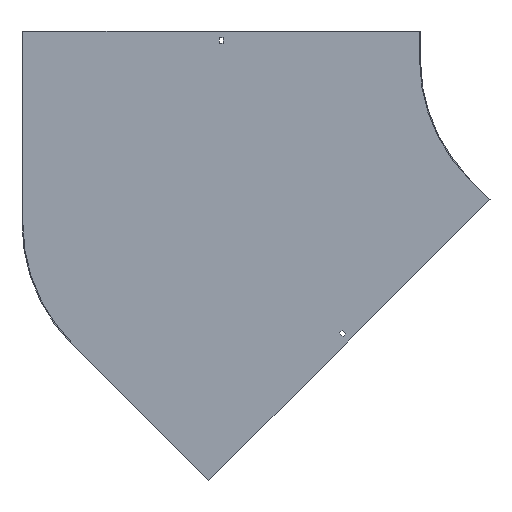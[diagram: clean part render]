
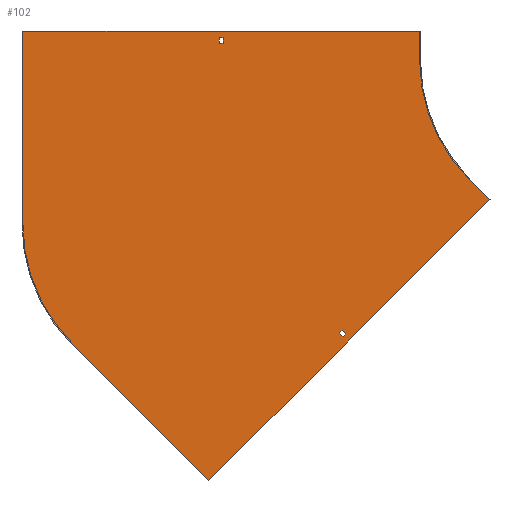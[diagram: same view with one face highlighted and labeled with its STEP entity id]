
A CAD part, front view. The second image highlights one B-rep face of the part: STEP entity #102.
In plain terms, the highlighted planar face has unit normal (0, -1, 0).
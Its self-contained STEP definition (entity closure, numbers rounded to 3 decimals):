
#5 = FACE_BOUND ( 'NONE', #630, .T. ) ;
#7 = CARTESIAN_POINT ( 'NONE',  ( -300., -1.5, 0. ) ) ;
#9 = CARTESIAN_POINT ( 'NONE',  ( -212.132, -1.5, -212.132 ) ) ;
#11 = DIRECTION ( 'NONE',  ( 0.707, 0., -0.707 ) ) ;
#32 = EDGE_CURVE ( 'NONE', #380, #757, #573, .T. ) ;
#38 = ORIENTED_EDGE ( 'NONE', *, *, #727, .T. ) ;
#45 = ORIENTED_EDGE ( 'NONE', *, *, #806, .F. ) ;
#46 = CARTESIAN_POINT ( 'NONE',  ( -700., -1.5, -289.949 ) ) ;
#52 = ORIENTED_EDGE ( 'NONE', *, *, #331, .F. ) ;
#60 = CARTESIAN_POINT ( 'NONE',  ( -912.132, -1.5, -502.082 ) ) ;
#63 = DIRECTION ( 'NONE',  ( 1., 0., 0. ) ) ;
#64 = LINE ( 'NONE', #9, #744 ) ;
#65 = CARTESIAN_POINT ( 'NONE',  ( 0., -1.5, 0. ) ) ;
#80 = CARTESIAN_POINT ( 'NONE',  ( 20.506, -1.5, -20.506 ) ) ;
#91 = ORIENTED_EDGE ( 'NONE', *, *, #459, .F. ) ;
#100 = VERTEX_POINT ( 'NONE', #497 ) ;
#102 = ADVANCED_FACE ( 'NONE', ( #816, #229, #5 ), #150, .T. ) ;
#112 = CARTESIAN_POINT ( 'NONE',  ( -646.75, -1.5, 0. ) ) ;
#115 = VECTOR ( 'NONE', #602, 1000. ) ;
#117 = ORIENTED_EDGE ( 'NONE', *, *, #769, .T. ) ;
#129 = ORIENTED_EDGE ( 'NONE', *, *, #659, .T. ) ;
#133 = CARTESIAN_POINT ( 'NONE',  ( 0., -1.5, 0. ) ) ;
#134 = DIRECTION ( 'NONE',  ( 0.707, 0., -0.707 ) ) ;
#135 = DIRECTION ( 'NONE',  ( 1., 0., 0. ) ) ;
#138 = DIRECTION ( 'NONE',  ( -0.707, 0., -0.707 ) ) ;
#145 = CARTESIAN_POINT ( 'NONE',  ( 26.87, -1.5, -26.87 ) ) ;
#150 = PLANE ( 'NONE',  #218 ) ;
#152 = VERTEX_POINT ( 'NONE', #413 ) ;
#176 = ORIENTED_EDGE ( 'NONE', *, *, #32, .T. ) ;
#177 = EDGE_CURVE ( 'NONE', #534, #817, #225, .T. ) ;
#182 = VERTEX_POINT ( 'NONE', #7 ) ;
#183 = VERTEX_POINT ( 'NONE', #276 ) ;
#188 = CARTESIAN_POINT ( 'NONE',  ( -441.411, -1.5, -482.424 ) ) ;
#201 = CARTESIAN_POINT ( 'NONE',  ( -653.25, -1.5, 38. ) ) ;
#207 = LINE ( 'NONE', #145, #210 ) ;
#210 = VECTOR ( 'NONE', #496, 1000. ) ;
#218 = AXIS2_PLACEMENT_3D ( 'NONE', #65, #358, #345 ) ;
#225 = LINE ( 'NONE', #685, #518 ) ;
#229 = FACE_OUTER_BOUND ( 'NONE', #570, .T. ) ;
#240 = ORIENTED_EDGE ( 'NONE', *, *, #536, .F. ) ;
#249 = VERTEX_POINT ( 'NONE', #707 ) ;
#261 = LINE ( 'NONE', #112, #815 ) ;
#274 = LINE ( 'NONE', #671, #721 ) ;
#275 = ORIENTED_EDGE ( 'NONE', *, *, #543, .F. ) ;
#276 = CARTESIAN_POINT ( 'NONE',  ( -176.777, -1.5, -247.487 ) ) ;
#285 = CARTESIAN_POINT ( 'NONE',  ( -435.047, -1.5, -488.788 ) ) ;
#297 = VERTEX_POINT ( 'NONE', #506 ) ;
#300 = AXIS2_PLACEMENT_3D ( 'NONE', #133, #601, #558 ) ;
#315 = LINE ( 'NONE', #582, #623 ) ;
#320 = DIRECTION ( 'NONE',  ( 0., 1., 0. ) ) ;
#331 = EDGE_CURVE ( 'NONE', #152, #182, #587, .T. ) ;
#332 = LINE ( 'NONE', #490, #741 ) ;
#336 = VERTEX_POINT ( 'NONE', #188 ) ;
#345 = DIRECTION ( 'NONE',  ( 0., 0., -1. ) ) ;
#352 = CARTESIAN_POINT ( 'NONE',  ( -653.25, -1.5, 0. ) ) ;
#358 = DIRECTION ( 'NONE',  ( 0., -1., 0. ) ) ;
#380 = VERTEX_POINT ( 'NONE', #201 ) ;
#386 = ORIENTED_EDGE ( 'NONE', *, *, #767, .F. ) ;
#388 = DIRECTION ( 'NONE',  ( -0.707, 0., -0.707 ) ) ;
#390 = DIRECTION ( 'NONE',  ( 0., 0., -1. ) ) ;
#404 = ORIENTED_EDGE ( 'NONE', *, *, #466, .F. ) ;
#405 = DIRECTION ( 'NONE',  ( 0., 0., 1. ) ) ;
#413 = CARTESIAN_POINT ( 'NONE',  ( -300., -1.5, 50. ) ) ;
#423 = CARTESIAN_POINT ( 'NONE',  ( -436.815, -1.5, -477.827 ) ) ;
#430 = VERTEX_POINT ( 'NONE', #285 ) ;
#459 = EDGE_CURVE ( 'NONE', #182, #777, #549, .T. ) ;
#461 = CARTESIAN_POINT ( 'NONE',  ( -1000., -1.5, -289.949 ) ) ;
#466 = EDGE_CURVE ( 'NONE', #100, #152, #487, .T. ) ;
#468 = DIRECTION ( 'NONE',  ( 0., 0., -1. ) ) ;
#472 = CIRCLE ( 'NONE', #504, 300. ) ;
#478 = VECTOR ( 'NONE', #725, 1000. ) ;
#482 = CARTESIAN_POINT ( 'NONE',  ( -646.75, -1.5, 38. ) ) ;
#487 = LINE ( 'NONE', #674, #783 ) ;
#490 = CARTESIAN_POINT ( 'NONE',  ( -1000., -1.5, -289.949 ) ) ;
#495 = EDGE_LOOP ( 'NONE', ( #833, #386, #275, #716 ) ) ;
#496 = DIRECTION ( 'NONE',  ( 0.707, 0., 0.707 ) ) ;
#497 = CARTESIAN_POINT ( 'NONE',  ( -1000., -1.5, 50. ) ) ;
#504 = AXIS2_PLACEMENT_3D ( 'NONE', #46, #320, #585 ) ;
#506 = CARTESIAN_POINT ( 'NONE',  ( -430.451, -1.5, -484.191 ) ) ;
#518 = VECTOR ( 'NONE', #748, 1000. ) ;
#529 = EDGE_CURVE ( 'NONE', #183, #534, #315, .T. ) ;
#532 = LINE ( 'NONE', #655, #478 ) ;
#534 = VERTEX_POINT ( 'NONE', #652 ) ;
#536 = EDGE_CURVE ( 'NONE', #817, #701, #472, .T. ) ;
#538 = CARTESIAN_POINT ( 'NONE',  ( -646.75, -1.5, 29. ) ) ;
#543 = EDGE_CURVE ( 'NONE', #336, #430, #849, .T. ) ;
#549 = CIRCLE ( 'NONE', #300, 300. ) ;
#556 = LINE ( 'NONE', #352, #115 ) ;
#558 = DIRECTION ( 'NONE',  ( 0., 0., -1. ) ) ;
#570 = EDGE_LOOP ( 'NONE', ( #404, #666, #240, #622, #828, #45, #91, #52 ) ) ;
#573 = LINE ( 'NONE', #835, #851 ) ;
#582 = CARTESIAN_POINT ( 'NONE',  ( -175.716, -1.5, -246.427 ) ) ;
#585 = DIRECTION ( 'NONE',  ( 0., 0., -1. ) ) ;
#587 = LINE ( 'NONE', #794, #631 ) ;
#601 = DIRECTION ( 'NONE',  ( 0., -1., 0. ) ) ;
#602 = DIRECTION ( 'NONE',  ( 0., 0., 1. ) ) ;
#603 = VECTOR ( 'NONE', #11, 1000. ) ;
#604 = DIRECTION ( 'NONE',  ( -1., 0., 0. ) ) ;
#622 = ORIENTED_EDGE ( 'NONE', *, *, #177, .F. ) ;
#623 = VECTOR ( 'NONE', #388, 1000. ) ;
#629 = EDGE_CURVE ( 'NONE', #701, #100, #332, .T. ) ;
#630 = EDGE_LOOP ( 'NONE', ( #176, #38, #129, #117 ) ) ;
#631 = VECTOR ( 'NONE', #468, 1000. ) ;
#652 = CARTESIAN_POINT ( 'NONE',  ( -671.751, -1.5, -742.462 ) ) ;
#655 = CARTESIAN_POINT ( 'NONE',  ( -457.321, -1.5, -457.321 ) ) ;
#659 = EDGE_CURVE ( 'NONE', #763, #249, #274, .T. ) ;
#666 = ORIENTED_EDGE ( 'NONE', *, *, #629, .F. ) ;
#667 = CARTESIAN_POINT ( 'NONE',  ( -461.918, -1.5, -461.918 ) ) ;
#671 = CARTESIAN_POINT ( 'NONE',  ( 0., -1.5, 29. ) ) ;
#674 = CARTESIAN_POINT ( 'NONE',  ( -1001.5, -1.5, 50. ) ) ;
#685 = CARTESIAN_POINT ( 'NONE',  ( -671.751, -1.5, -742.462 ) ) ;
#689 = CARTESIAN_POINT ( 'NONE',  ( -212.132, -1.5, -212.132 ) ) ;
#696 = VECTOR ( 'NONE', #138, 1000. ) ;
#701 = VERTEX_POINT ( 'NONE', #461 ) ;
#707 = CARTESIAN_POINT ( 'NONE',  ( -653.25, -1.5, 29. ) ) ;
#716 = ORIENTED_EDGE ( 'NONE', *, *, #785, .F. ) ;
#721 = VECTOR ( 'NONE', #604, 1000. ) ;
#725 = DIRECTION ( 'NONE',  ( -0.707, 0., 0.707 ) ) ;
#727 = EDGE_CURVE ( 'NONE', #757, #763, #261, .T. ) ;
#734 = EDGE_CURVE ( 'NONE', #297, #761, #532, .T. ) ;
#737 = LINE ( 'NONE', #80, #696 ) ;
#741 = VECTOR ( 'NONE', #405, 1000. ) ;
#744 = VECTOR ( 'NONE', #134, 1000. ) ;
#748 = DIRECTION ( 'NONE',  ( -0.707, 0., 0.707 ) ) ;
#757 = VERTEX_POINT ( 'NONE', #482 ) ;
#761 = VERTEX_POINT ( 'NONE', #423 ) ;
#763 = VERTEX_POINT ( 'NONE', #538 ) ;
#767 = EDGE_CURVE ( 'NONE', #430, #297, #207, .T. ) ;
#769 = EDGE_CURVE ( 'NONE', #249, #380, #556, .T. ) ;
#777 = VERTEX_POINT ( 'NONE', #689 ) ;
#783 = VECTOR ( 'NONE', #63, 1000. ) ;
#785 = EDGE_CURVE ( 'NONE', #761, #336, #737, .T. ) ;
#794 = CARTESIAN_POINT ( 'NONE',  ( -300., -1.5, 50. ) ) ;
#806 = EDGE_CURVE ( 'NONE', #777, #183, #64, .T. ) ;
#815 = VECTOR ( 'NONE', #390, 1000. ) ;
#816 = FACE_BOUND ( 'NONE', #495, .T. ) ;
#817 = VERTEX_POINT ( 'NONE', #60 ) ;
#828 = ORIENTED_EDGE ( 'NONE', *, *, #529, .F. ) ;
#833 = ORIENTED_EDGE ( 'NONE', *, *, #734, .F. ) ;
#835 = CARTESIAN_POINT ( 'NONE',  ( 0., -1.5, 38. ) ) ;
#849 = LINE ( 'NONE', #667, #603 ) ;
#851 = VECTOR ( 'NONE', #135, 1000. ) ;
